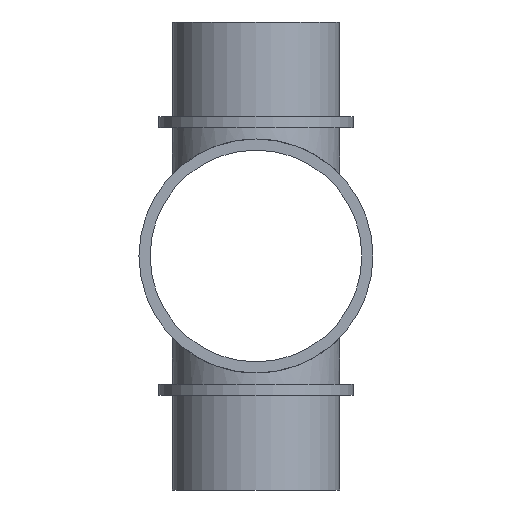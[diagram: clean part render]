
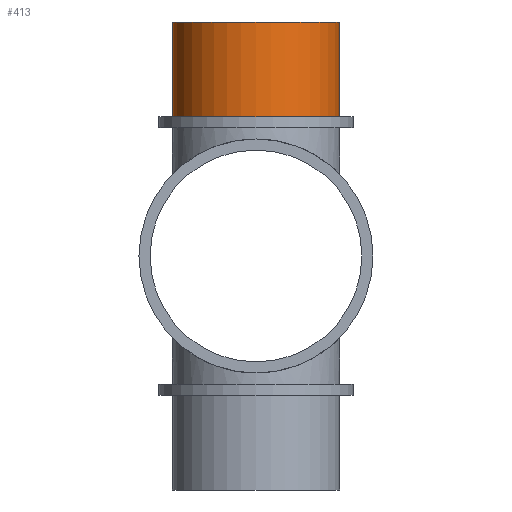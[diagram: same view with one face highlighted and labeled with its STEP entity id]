
A CAD part, left-side view. The second image highlights one B-rep face of the part: STEP entity #413.
In plain terms, the highlighted cylindrical face has radius 15 mm (diameter 30 mm), a full revolution.
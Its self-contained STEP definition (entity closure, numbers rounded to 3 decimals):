
#71=FACE_OUTER_BOUND('',#111,.T.);
#111=EDGE_LOOP('',(#334,#335,#336,#337));
#140=LINE('',#825,#156);
#156=VECTOR('',#596,15.);
#183=CIRCLE('',#479,15.);
#184=CIRCLE('',#481,15.);
#217=VERTEX_POINT('',#821);
#218=VERTEX_POINT('',#824);
#260=EDGE_CURVE('',#217,#217,#183,.T.);
#261=EDGE_CURVE('',#217,#218,#140,.T.);
#262=EDGE_CURVE('',#218,#218,#184,.T.);
#334=ORIENTED_EDGE('',*,*,#260,.F.);
#335=ORIENTED_EDGE('',*,*,#261,.T.);
#336=ORIENTED_EDGE('',*,*,#262,.T.);
#337=ORIENTED_EDGE('',*,*,#261,.F.);
#386=CYLINDRICAL_SURFACE('',#480,15.);
#413=ADVANCED_FACE('',(#71),#386,.T.);
#479=AXIS2_PLACEMENT_3D('',#822,#592,#593);
#480=AXIS2_PLACEMENT_3D('',#823,#594,#595);
#481=AXIS2_PLACEMENT_3D('',#826,#597,#598);
#592=DIRECTION('center_axis',(0.,0.,1.));
#593=DIRECTION('ref_axis',(1.,0.,0.));
#594=DIRECTION('center_axis',(0.,0.,1.));
#595=DIRECTION('ref_axis',(1.,0.,0.));
#596=DIRECTION('',(0.,0.,-1.));
#597=DIRECTION('center_axis',(0.,0.,1.));
#598=DIRECTION('ref_axis',(1.,0.,0.));
#821=CARTESIAN_POINT('',(138.093,317.082,84.));
#822=CARTESIAN_POINT('Origin',(153.093,317.082,84.));
#823=CARTESIAN_POINT('Origin',(153.093,317.082,0.));
#824=CARTESIAN_POINT('',(138.093,317.082,67.));
#825=CARTESIAN_POINT('',(138.093,317.082,0.));
#826=CARTESIAN_POINT('Origin',(153.093,317.082,67.));
